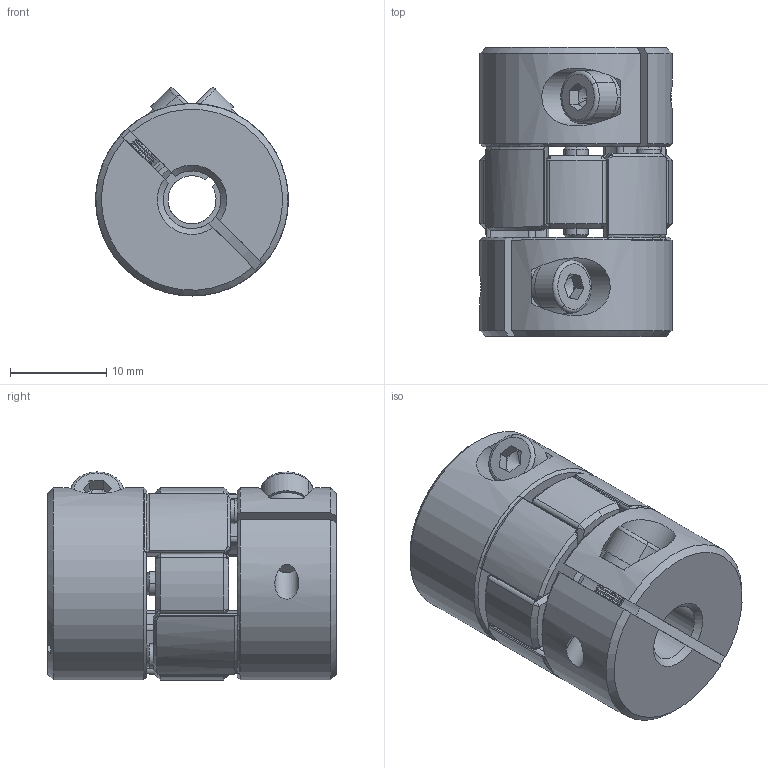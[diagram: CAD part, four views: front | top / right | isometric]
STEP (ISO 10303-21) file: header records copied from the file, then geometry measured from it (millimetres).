
FILE_DESCRIPTION (( 'STEP AP203' ), '1' );
FILE_NAME ('LF-B-D20L30-5-6.STEP', '2021-10-27T02:43:13', ( '' ), ( '' ), 'SwSTEP 2.0', 'SolidWorks 2018', '' );
FILE_SCHEMA (( 'CONFIG_CONTROL_DESIGN' ));
Length unit declared in the file: millimetre
Products named in the file (1): LF-B-D20L30-5-6
Bounding box: 20 x 30 x 21.62 mm (x, y, z)
Volume: 7818 mm3; surface area: 4893.1 mm2
Topology: 1 solids, 1 shells, 518 faces, 1253 edges, 691 vertices
Faces by surface type: cone 252, cylinder 192, plane 62, torus 12
Entity records: 15026 total; most frequent: CARTESIAN_POINT 2906, DIRECTION 2742, ORIENTED_EDGE 2426, EDGE_CURVE 1213, AXIS2_PLACEMENT_3D 1107, VERTEX_POINT 691, CIRCLE 588, EDGE_LOOP 546
